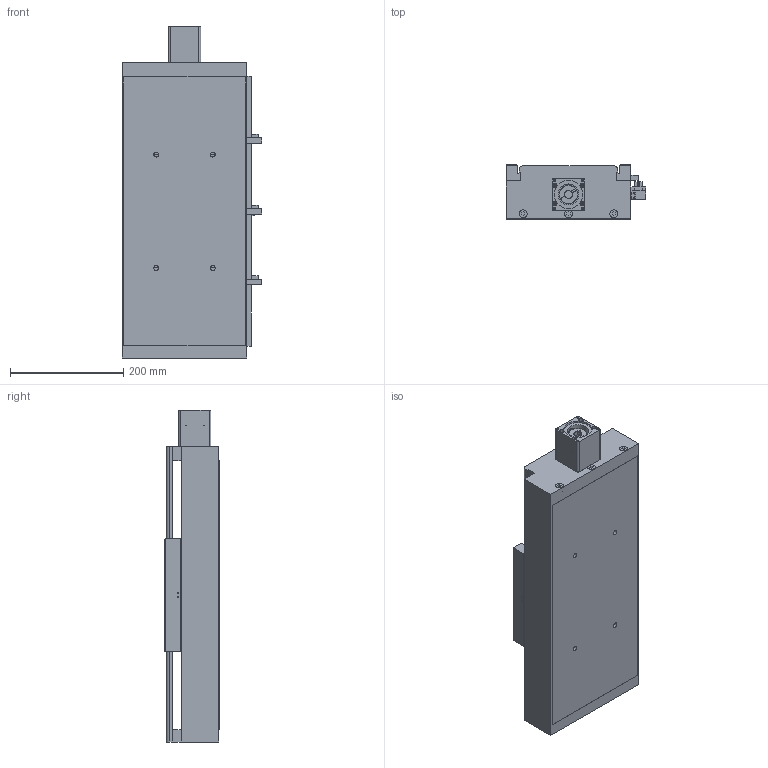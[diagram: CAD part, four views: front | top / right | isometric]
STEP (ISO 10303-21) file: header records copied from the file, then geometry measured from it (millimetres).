
FILE_DESCRIPTION((''),'2;1');
FILE_NAME('E:\libraries\UIA actuator library 2016\standard actuator\UIA220R20NDC\UIA220R20NDC ball screw 20\UIA220R20NDC-_ _ _-R20_ _ stp file, 01May16\UIA220R20NDC-250-R20_ _-M60-P13-C10-S.stp','2016-04-29T15:03:12',('h029'),(''),'Autodesk Inventor 11','Autodesk Inventor 11','');
FILE_SCHEMA(('AUTOMOTIVE_DESIGN { 1 0 10303 214 1 1 1 1 }'));
Length unit declared in the file: millimetre
Products named in the file (10): UIA220R20NDC-250-R20_ _; UIA220R20NDC-body; 41-100 0010 CARRIAGE; sensor rail; Sensor Switch; motor mount M60; SOH-32C; SOH-32C-3; SOH-32C-1; SOH-32C-2
Assembly tree (9 placements, depth 3):
  UIA220R20NDC-250-R20_ _
    UIA220R20NDC-body
    41-100 0010 CARRIAGE
    sensor rail
    Sensor Switch
    motor mount M60
    SOH-32C
      SOH-32C-3
      SOH-32C-1
      SOH-32C-2
Bounding box: 246.5 x 96 x 586 mm (x, y, z)
Volume: 4076776.4 mm3; surface area: 880191 mm2
Topology: 8 solids, 8 shells, 500 faces, 1342 edges, 882 vertices
Faces by surface type: plane 341, bspline 109, cylinder 48, cone 2
Full cylindrical faces by diameter (mm): 3.242 x2, 4.5 x2, 7 x4, 7.5 x2, 12 x2, 13.8 x3, 14 x4, 15 x1, 32 x3, 37 x1, 46.9 x1, 47.1 x1
Entity records: 16326 total; most frequent: CARTESIAN_POINT 4540, ORIENTED_EDGE 2298, DIRECTION 2249, EDGE_CURVE 1149, VECTOR 849, LINE 849, VERTEX_POINT 808, EDGE_LOOP 711
